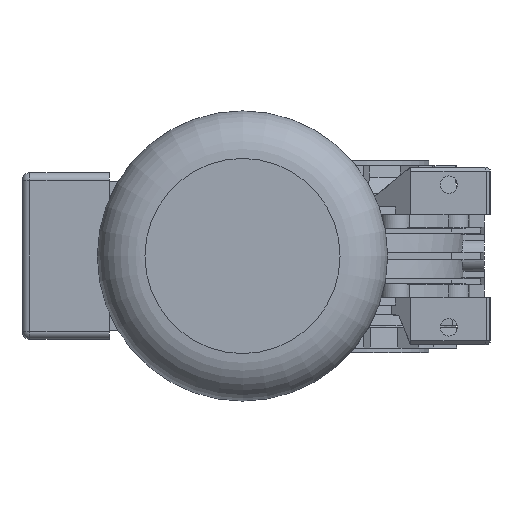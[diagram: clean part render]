
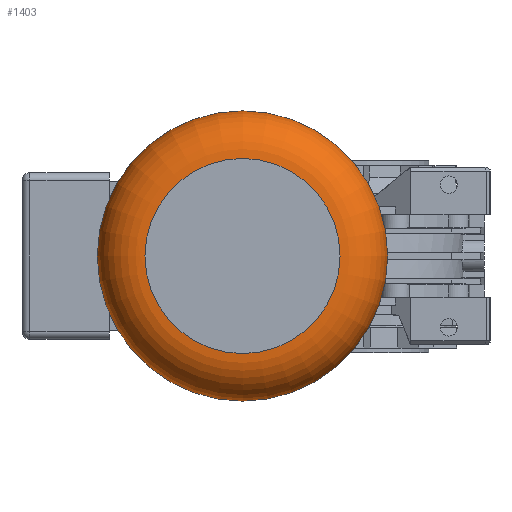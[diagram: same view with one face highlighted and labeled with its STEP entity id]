
A CAD part, left-side view. The second image highlights one B-rep face of the part: STEP entity #1403.
In plain terms, the highlighted toroidal (fillet/blend) face has major radius 61.5 mm and minor radius 30 mm.
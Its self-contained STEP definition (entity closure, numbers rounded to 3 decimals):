
#1403 = ADVANCED_FACE( '', ( #3768, #3769 ), #3770, .T. );
#3768 = FACE_OUTER_BOUND( '', #7278, .T. );
#3769 = FACE_OUTER_BOUND( '', #7279, .T. );
#3770 = TOROIDAL_SURFACE( '', #7280, 61.5, 30. );
#7278 = EDGE_LOOP( '', ( #11607 ) );
#7279 = EDGE_LOOP( '', ( #11608 ) );
#7280 = AXIS2_PLACEMENT_3D( '', #11609, #11610, #11611 );
#11607 = ORIENTED_EDGE( '', *, *, #20779, .F. );
#11608 = ORIENTED_EDGE( '', *, *, #21133, .F. );
#11609 = CARTESIAN_POINT( '', ( -405.5, 70., 0. ) );
#11610 = DIRECTION( '', ( -1., 0., 0. ) );
#11611 = DIRECTION( '', ( 0., 1., 0. ) );
#20779 = EDGE_CURVE( '', #25046, #25046, #25047, .T. );
#21133 = EDGE_CURVE( '', #25664, #25664, #25665, .F. );
#25046 = VERTEX_POINT( '', #31150 );
#25047 = CIRCLE( '', #31151, 61.5 );
#25664 = VERTEX_POINT( '', #32031 );
#25665 = CIRCLE( '', #32032, 91.5 );
#31150 = CARTESIAN_POINT( '', ( -435.5, 131.5, 0. ) );
#31151 = AXIS2_PLACEMENT_3D( '', #39114, #39115, #39116 );
#32031 = CARTESIAN_POINT( '', ( -405.5, 161.5, 0. ) );
#32032 = AXIS2_PLACEMENT_3D( '', #39503, #39504, #39505 );
#39114 = CARTESIAN_POINT( '', ( -435.5, 70., 0. ) );
#39115 = DIRECTION( '', ( -1., 0., 0. ) );
#39116 = DIRECTION( '', ( 0., 1., 0. ) );
#39503 = CARTESIAN_POINT( '', ( -405.5, 70., 0. ) );
#39504 = DIRECTION( '', ( -1., 0., 0. ) );
#39505 = DIRECTION( '', ( 0., 1., 0. ) );
